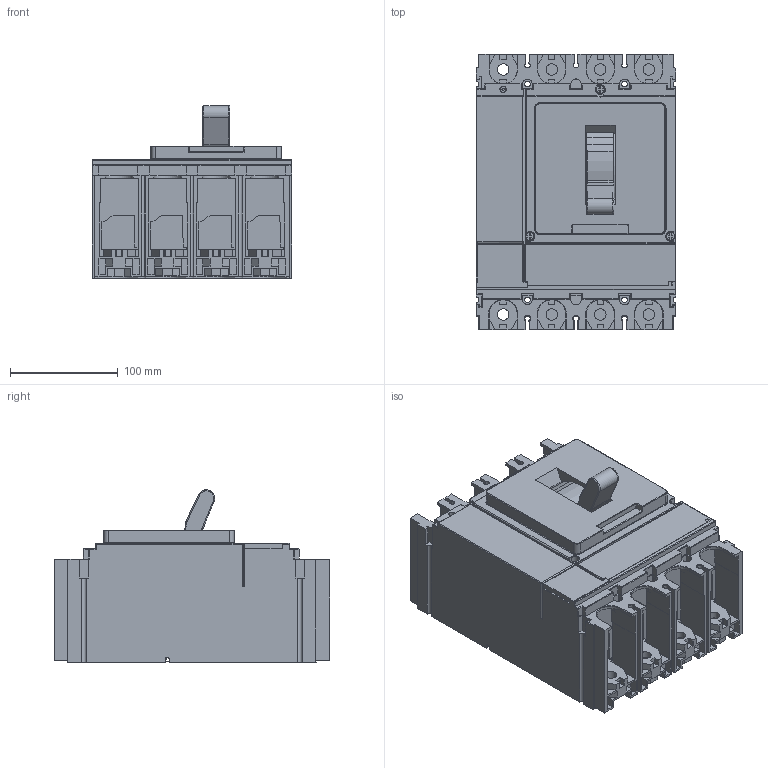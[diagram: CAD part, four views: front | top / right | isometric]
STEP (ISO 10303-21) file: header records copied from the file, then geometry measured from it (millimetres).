
FILE_DESCRIPTION((''),'2;1');
FILE_NAME('ASM0001_ASM','2020-12-15T12:59:54',('user-pc'),('Schneider-Electric'),'CREO PARAMETRIC BY PTC INC, 2018300','CREO PARAMETRIC BY PTC INC, 2018300','');
FILE_SCHEMA(('CONFIG_CONTROL_DESIGN'));
Length unit declared in the file: millimetre
Products named in the file (2): C634630S_3D-SIMPLIFIED_3; ASM0001_ASM
Assembly tree (1 placements, depth 2):
  ASM0001_ASM
    C634630S_3D-SIMPLIFIED_3
Bounding box: 184.74 x 255 x 159.74 mm (x, y, z)
Volume: 4393715.7 mm3; surface area: 323196.6 mm2
Topology: 1 solids, 13 shells, 1425 faces, 3983 edges, 2617 vertices
Faces by surface type: plane 974, cylinder 368, torus 34, sphere 23, bspline 20, extrusion 6
Entity records: 48989 total; most frequent: CARTESIAN_POINT 11930, ORIENTED_EDGE 7920, DIRECTION 7458, EDGE_CURVE 3960, VECTOR 2992, LINE 2986, VERTEX_POINT 2617, AXIS2_PLACEMENT_3D 2233
